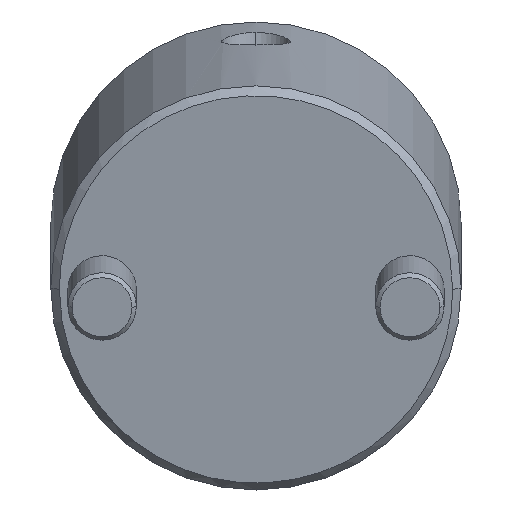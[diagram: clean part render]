
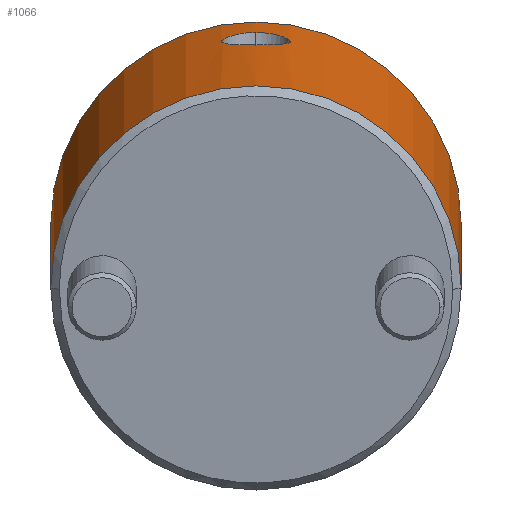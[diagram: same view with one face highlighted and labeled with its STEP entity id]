
A CAD part, front view. The second image highlights one B-rep face of the part: STEP entity #1066.
In plain terms, the highlighted cylindrical face has radius 24 mm (diameter 48 mm), a partial arc.
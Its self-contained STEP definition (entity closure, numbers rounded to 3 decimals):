
#808=CARTESIAN_POINT('Vertex',(0.,24.,1.)) ;
#811=CARTESIAN_POINT('Axis2P3D Location',(0.,0.,1.)) ;
#815=CARTESIAN_POINT('Vertex',(0.,-24.,1.)) ;
#967=CARTESIAN_POINT('Axis2P3D Location',(0.,0.,-2.25)) ;
#972=CARTESIAN_POINT('Line Origine',(0.,24.,-2.25)) ;
#976=CARTESIAN_POINT('Vertex',(0.,24.,44.)) ;
#979=CARTESIAN_POINT('Axis2P3D Location',(0.,0.,44.)) ;
#983=CARTESIAN_POINT('Vertex',(0.,-24.,44.)) ;
#986=CARTESIAN_POINT('Line Origine',(0.,-24.,-2.25)) ;
#998=CARTESIAN_POINT('Control Point',(24.,0.,36.913)) ;
#999=CARTESIAN_POINT('Control Point',(24.,0.582,36.913)) ;
#1000=CARTESIAN_POINT('Control Point',(23.982,1.153,36.804)) ;
#1001=CARTESIAN_POINT('Control Point',(23.948,1.703,36.586)) ;
#1002=CARTESIAN_POINT('Control Point',(23.888,2.367,36.172)) ;
#1003=CARTESIAN_POINT('Control Point',(23.823,2.916,35.611)) ;
#1004=CARTESIAN_POINT('Control Point',(23.806,3.048,35.458)) ;
#1005=CARTESIAN_POINT('Control Point',(23.774,3.292,35.141)) ;
#1006=CARTESIAN_POINT('Control Point',(23.744,3.495,34.796)) ;
#1007=CARTESIAN_POINT('Control Point',(23.731,3.587,34.619)) ;
#1008=CARTESIAN_POINT('Control Point',(23.706,3.747,34.254)) ;
#1009=CARTESIAN_POINT('Control Point',(23.687,3.864,33.874)) ;
#1010=CARTESIAN_POINT('Control Point',(23.679,3.911,33.681)) ;
#1011=CARTESIAN_POINT('Control Point',(23.667,3.981,33.292)) ;
#1012=CARTESIAN_POINT('Control Point',(23.663,4.006,32.895)) ;
#1013=CARTESIAN_POINT('Control Point',(23.663,4.006,32.7)) ;
#1014=CARTESIAN_POINT('Control Point',(23.667,3.983,32.307)) ;
#1015=CARTESIAN_POINT('Control Point',(23.679,3.914,31.922)) ;
#1016=CARTESIAN_POINT('Control Point',(23.686,3.868,31.732)) ;
#1017=CARTESIAN_POINT('Control Point',(23.714,3.695,31.172)) ;
#1018=CARTESIAN_POINT('Control Point',(23.756,3.424,30.653)) ;
#1019=CARTESIAN_POINT('Control Point',(23.788,3.201,30.33)) ;
#1020=CARTESIAN_POINT('Control Point',(23.846,2.744,29.818)) ;
#1021=CARTESIAN_POINT('Control Point',(23.902,2.191,29.416)) ;
#1022=CARTESIAN_POINT('Control Point',(23.924,1.937,29.266)) ;
#1023=CARTESIAN_POINT('Control Point',(23.962,1.414,29.017)) ;
#1024=CARTESIAN_POINT('Control Point',(23.987,0.853,28.865)) ;
#1025=CARTESIAN_POINT('Control Point',(23.996,0.57,28.814)) ;
#1026=CARTESIAN_POINT('Control Point',(24.,0.286,28.79)) ;
#1027=CARTESIAN_POINT('Control Point',(24.,0.,28.79)) ;
#1028=CARTESIAN_POINT('Vertex',(24.,0.,36.913)) ;
#1030=CARTESIAN_POINT('Vertex',(24.,0.,28.79)) ;
#1034=CARTESIAN_POINT('Control Point',(24.,0.,28.79)) ;
#1035=CARTESIAN_POINT('Control Point',(24.,-0.392,28.79)) ;
#1036=CARTESIAN_POINT('Control Point',(23.992,-0.781,28.836)) ;
#1037=CARTESIAN_POINT('Control Point',(23.976,-1.167,28.931)) ;
#1038=CARTESIAN_POINT('Control Point',(23.931,-1.903,29.211)) ;
#1039=CARTESIAN_POINT('Control Point',(23.867,-2.548,29.659)) ;
#1040=CARTESIAN_POINT('Control Point',(23.834,-2.841,29.921)) ;
#1041=CARTESIAN_POINT('Control Point',(23.775,-3.291,30.438)) ;
#1042=CARTESIAN_POINT('Control Point',(23.726,-3.619,31.036)) ;
#1043=CARTESIAN_POINT('Control Point',(23.708,-3.736,31.304)) ;
#1044=CARTESIAN_POINT('Control Point',(23.683,-3.889,31.767)) ;
#1045=CARTESIAN_POINT('Control Point',(23.669,-3.971,32.251)) ;
#1046=CARTESIAN_POINT('Control Point',(23.666,-3.993,32.447)) ;
#1047=CARTESIAN_POINT('Control Point',(23.661,-4.021,33.042)) ;
#1048=CARTESIAN_POINT('Control Point',(23.674,-3.942,33.637)) ;
#1049=CARTESIAN_POINT('Control Point',(23.691,-3.843,34.022)) ;
#1050=CARTESIAN_POINT('Control Point',(23.725,-3.628,34.581)) ;
#1051=CARTESIAN_POINT('Control Point',(23.77,-3.317,35.093)) ;
#1052=CARTESIAN_POINT('Control Point',(23.786,-3.205,35.256)) ;
#1053=CARTESIAN_POINT('Control Point',(23.818,-2.958,35.571)) ;
#1054=CARTESIAN_POINT('Control Point',(23.851,-2.678,35.852)) ;
#1055=CARTESIAN_POINT('Control Point',(23.867,-2.531,35.982)) ;
#1056=CARTESIAN_POINT('Control Point',(23.921,-2.003,36.397)) ;
#1057=CARTESIAN_POINT('Control Point',(23.965,-1.4,36.694)) ;
#1058=CARTESIAN_POINT('Control Point',(23.988,-0.944,36.84)) ;
#1059=CARTESIAN_POINT('Control Point',(24.,-0.476,36.913)) ;
#1060=CARTESIAN_POINT('Control Point',(24.,0.,36.913)) ;
#812=DIRECTION('Axis2P3D Direction',(0.,0.,1.)) ;
#968=DIRECTION('Axis2P3D Direction',(0.,-0.,1.)) ;
#969=DIRECTION('Axis2P3D XDirection',(0.,-1.,0.)) ;
#973=DIRECTION('Vector Direction',(0.,0.,1.)) ;
#980=DIRECTION('Axis2P3D Direction',(0.,-0.,1.)) ;
#987=DIRECTION('Vector Direction',(0.,0.,1.)) ;
#813=AXIS2_PLACEMENT_3D('Circle Axis2P3D',#811,#812,$) ;
#970=AXIS2_PLACEMENT_3D('Cylinder Axis2P3D',#967,#968,#969) ;
#981=AXIS2_PLACEMENT_3D('Circle Axis2P3D',#979,#980,$) ;
#992=ORIENTED_EDGE('',*,*,#978,.F.) ;
#993=ORIENTED_EDGE('',*,*,#985,.T.) ;
#994=ORIENTED_EDGE('',*,*,#990,.T.) ;
#995=ORIENTED_EDGE('',*,*,#817,.F.) ;
#1063=ORIENTED_EDGE('',*,*,#1032,.T.) ;
#1064=ORIENTED_EDGE('',*,*,#1061,.T.) ;
#1065=FACE_BOUND('',#1062,.T.) ;
#974=VECTOR('Line Direction',#973,1.) ;
#988=VECTOR('Line Direction',#987,1.) ;
#1066=ADVANCED_FACE('MANIFOLD_SOLID_BREP #1138',(#996,#1065),#971,.T.) ;
#997=B_SPLINE_CURVE_WITH_KNOTS('',5,(#998,#999,#1000,#1001,#1002,#1003,#1004,#1005,#1006,#1007,#1008,#1009,#1010,#1011,#1012,#1013,#1014,#1015,#1016,#1017,#1018,#1019,#1020,#1021,#1022,#1023,#1024,#1025,#1026,#1027),.UNSPECIFIED.,.F.,.U.,(6,3,3,3,3,3,3,3,3,6),(0.,4.132,5.523,6.921,8.312,9.683,11.058,13.836,15.922,17.949),.UNSPECIFIED.) ;
#1033=B_SPLINE_CURVE_WITH_KNOTS('',5,(#1034,#1035,#1036,#1037,#1038,#1039,#1040,#1041,#1042,#1043,#1044,#1045,#1046,#1047,#1048,#1049,#1050,#1051,#1052,#1053,#1054,#1055,#1056,#1057,#1058,#1059,#1060),.UNSPECIFIED.,.F.,.U.,(6,3,3,3,3,3,3,3,6),(0.,2.782,5.564,7.639,9.01,11.786,13.181,14.576,17.952),.UNSPECIFIED.) ;
#814=CIRCLE('generated circle',#813,24.) ;
#982=CIRCLE('generated circle',#981,24.) ;
#971=CYLINDRICAL_SURFACE('generated cylinder',#970,24.) ;
#817=EDGE_CURVE('',#809,#816,#814,.F.) ;
#978=EDGE_CURVE('',#977,#809,#975,.F.) ;
#985=EDGE_CURVE('',#977,#984,#982,.F.) ;
#990=EDGE_CURVE('',#984,#816,#989,.F.) ;
#1032=EDGE_CURVE('',#1029,#1031,#997,.T.) ;
#1061=EDGE_CURVE('',#1031,#1029,#1033,.T.) ;
#991=EDGE_LOOP('',(#992,#993,#994,#995)) ;
#1062=EDGE_LOOP('',(#1063,#1064)) ;
#996=FACE_OUTER_BOUND('',#991,.T.) ;
#975=LINE('Line',#972,#974) ;
#989=LINE('Line',#986,#988) ;
#809=VERTEX_POINT('',#808) ;
#816=VERTEX_POINT('',#815) ;
#977=VERTEX_POINT('',#976) ;
#984=VERTEX_POINT('',#983) ;
#1029=VERTEX_POINT('',#1028) ;
#1031=VERTEX_POINT('',#1030) ;
